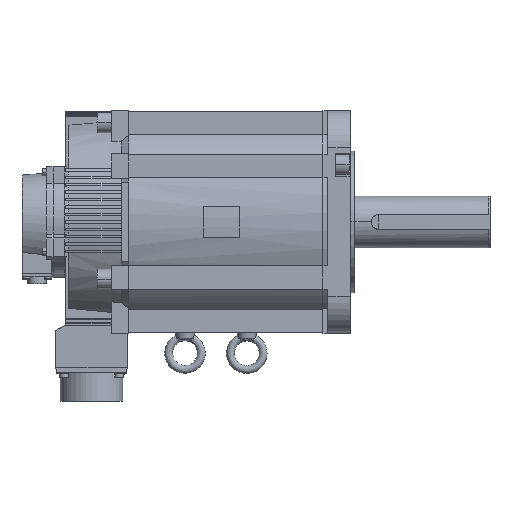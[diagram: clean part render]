
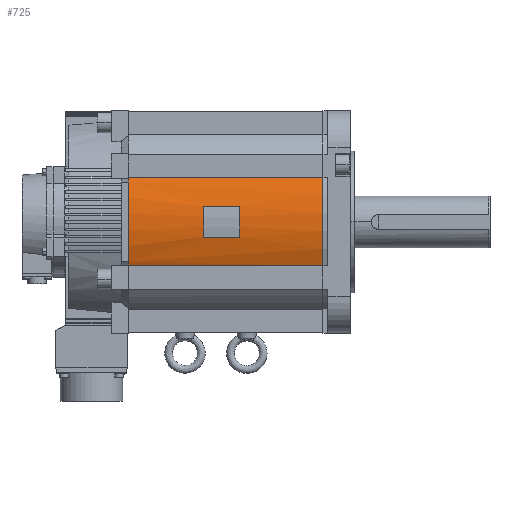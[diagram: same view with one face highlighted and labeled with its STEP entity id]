
A CAD part, top view. The second image highlights one B-rep face of the part: STEP entity #725.
In plain terms, the highlighted cylindrical face has radius 89 mm (diameter 178 mm), a partial arc.
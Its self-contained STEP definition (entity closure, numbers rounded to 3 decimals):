
#725=ADVANCED_FACE('',(#7061,#7062),#7060,.T.);
#7060=CYLINDRICAL_SURFACE('',#12112,89.);
#7061=FACE_OUTER_BOUND('',#12113,.T.);
#7062=FACE_BOUND('',#12114,.T.);
#12109=CARTESIAN_POINT('',(-100.55,0.,0.));
#12110=DIRECTION('',(-1.,0.,0.));
#12111=DIRECTION('',(0.,-0.401,0.916));
#12112=AXIS2_PLACEMENT_3D('',#12109,#12110,#12111);
#12113=EDGE_LOOP('',(#16617,#16618,#16619,#16620,#16621,#16622,#16623,#16624));
#12114=EDGE_LOOP('',(#16625,#16626,#16627,#16628));
#16617=ORIENTED_EDGE('',*,*,#18660,.T.);
#16618=ORIENTED_EDGE('',*,*,#18744,.F.);
#16619=ORIENTED_EDGE('',*,*,#18627,.T.);
#16620=ORIENTED_EDGE('',*,*,#19365,.F.);
#16621=ORIENTED_EDGE('',*,*,#17823,.F.);
#16622=ORIENTED_EDGE('',*,*,#17483,.F.);
#16623=ORIENTED_EDGE('',*,*,#18530,.F.);
#16624=ORIENTED_EDGE('',*,*,#18539,.F.);
#16625=ORIENTED_EDGE('',*,*,#18768,.F.);
#16626=ORIENTED_EDGE('',*,*,#18774,.F.);
#16627=ORIENTED_EDGE('',*,*,#18772,.F.);
#16628=ORIENTED_EDGE('',*,*,#18770,.F.);
#17483=EDGE_CURVE('',#20167,#20168,#20169,.T.);
#17823=EDGE_CURVE('',#20168,#22440,#22460,.T.);
#18530=EDGE_CURVE('',#19923,#20167,#27272,.T.);
#18539=EDGE_CURVE('',#27326,#19923,#27333,.T.);
#18627=EDGE_CURVE('',#27923,#27924,#27925,.T.);
#18660=EDGE_CURVE('',#27326,#28145,#28146,.T.);
#18744=EDGE_CURVE('',#27923,#28145,#28701,.T.);
#18768=EDGE_CURVE('',#28845,#28852,#28853,.T.);
#18770=EDGE_CURVE('',#28852,#28865,#28866,.T.);
#18772=EDGE_CURVE('',#28865,#28878,#28879,.T.);
#18774=EDGE_CURVE('',#28878,#28845,#28891,.T.);
#19365=EDGE_CURVE('',#22440,#27924,#32749,.T.);
#19923=VERTEX_POINT('',#34081);
#20167=VERTEX_POINT('',#34234);
#20168=VERTEX_POINT('',#34235);
#20169=CIRCLE('',#34239,89.);
#22440=VERTEX_POINT('',#35632);
#22460=CIRCLE('',#35649,89.);
#27272=CIRCLE('',#38668,89.);
#27326=VERTEX_POINT('',#38698);
#27333=CIRCLE('',#38705,89.);
#27923=VERTEX_POINT('',#39057);
#27924=VERTEX_POINT('',#39058);
#27925=LINE('',#39059,#39060);
#28145=VERTEX_POINT('',#39185);
#28146=LINE('',#39186,#39187);
#28701=CIRCLE('',#39533,89.);
#28845=VERTEX_POINT('',#39624);
#28852=VERTEX_POINT('',#39628);
#28853=CIRCLE('',#39632,89.);
#28865=VERTEX_POINT('',#39636);
#28866=LINE('',#39637,#39638);
#28878=VERTEX_POINT('',#39643);
#28879=CIRCLE('',#39647,89.);
#28891=LINE('',#39651,#39652);
#32749=CIRCLE('',#42035,89.);
#34081=CARTESIAN_POINT('',(-179.,-35.,81.829));
#34234=CARTESIAN_POINT('',(-179.,-32.,83.048));
#34235=CARTESIAN_POINT('',(-179.,32.,83.048));
#34236=CARTESIAN_POINT('',(-179.,0.,0.));
#34237=DIRECTION('',(-1.,0.,0.));
#34238=DIRECTION('',(0.,0.36,-0.933));
#34239=AXIS2_PLACEMENT_3D('',#34236,#34237,#34238);
#35632=CARTESIAN_POINT('',(-179.,35.,81.829));
#35646=CARTESIAN_POINT('',(-179.,0.,0.));
#35647=DIRECTION('',(-1.,0.,0.));
#35648=DIRECTION('',(0.,-0.36,-0.933));
#35649=AXIS2_PLACEMENT_3D('',#35646,#35647,#35648);
#38665=CARTESIAN_POINT('',(-179.,0.,0.));
#38666=DIRECTION('',(-1.,0.,0.));
#38667=DIRECTION('',(0.,0.393,-0.919));
#38668=AXIS2_PLACEMENT_3D('',#38665,#38666,#38667);
#38698=CARTESIAN_POINT('',(-179.,-35.7,81.526));
#38702=CARTESIAN_POINT('',(-179.,0.,0.));
#38703=DIRECTION('',(-1.,0.,0.));
#38704=DIRECTION('',(0.,0.401,-0.916));
#38705=AXIS2_PLACEMENT_3D('',#38702,#38703,#38704);
#39057=CARTESIAN_POINT('',(-22.1,35.7,81.526));
#39058=CARTESIAN_POINT('',(-179.,35.7,81.526));
#39059=CARTESIAN_POINT('',(-22.1,35.7,81.526));
#39060=VECTOR('',#39061,156.9);
#39061=DIRECTION('',(-1.,0.,0.));
#39185=CARTESIAN_POINT('',(-22.1,-35.7,81.526));
#39186=CARTESIAN_POINT('',(-179.,-35.7,81.526));
#39187=VECTOR('',#39188,156.9);
#39188=DIRECTION('',(1.,0.,0.));
#39530=CARTESIAN_POINT('',(-22.1,0.,0.));
#39531=DIRECTION('',(1.,0.,0.));
#39532=DIRECTION('',(0.,-0.401,-0.916));
#39533=AXIS2_PLACEMENT_3D('',#39530,#39531,#39532);
#39624=CARTESIAN_POINT('',(-118.525,12.5,88.118));
#39628=CARTESIAN_POINT('',(-118.525,-12.5,88.118));
#39629=CARTESIAN_POINT('',(-118.525,0.,0.));
#39630=DIRECTION('',(1.,0.,0.));
#39631=DIRECTION('',(0.,-0.14,-0.99));
#39632=AXIS2_PLACEMENT_3D('',#39629,#39630,#39631);
#39636=CARTESIAN_POINT('',(-89.275,-12.5,88.118));
#39637=CARTESIAN_POINT('',(-118.525,-12.5,88.118));
#39638=VECTOR('',#39639,29.25);
#39639=DIRECTION('',(1.,0.,0.));
#39643=CARTESIAN_POINT('',(-89.275,12.5,88.118));
#39644=CARTESIAN_POINT('',(-89.275,0.,0.));
#39645=DIRECTION('',(-1.,0.,0.));
#39646=DIRECTION('',(0.,0.14,-0.99));
#39647=AXIS2_PLACEMENT_3D('',#39644,#39645,#39646);
#39651=CARTESIAN_POINT('',(-89.275,12.5,88.118));
#39652=VECTOR('',#39653,29.25);
#39653=DIRECTION('',(-1.,0.,0.));
#42032=CARTESIAN_POINT('',(-179.,0.,0.));
#42033=DIRECTION('',(-1.,0.,0.));
#42034=DIRECTION('',(0.,-0.393,-0.919));
#42035=AXIS2_PLACEMENT_3D('',#42032,#42033,#42034);
